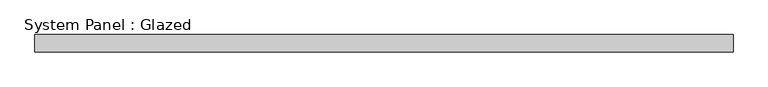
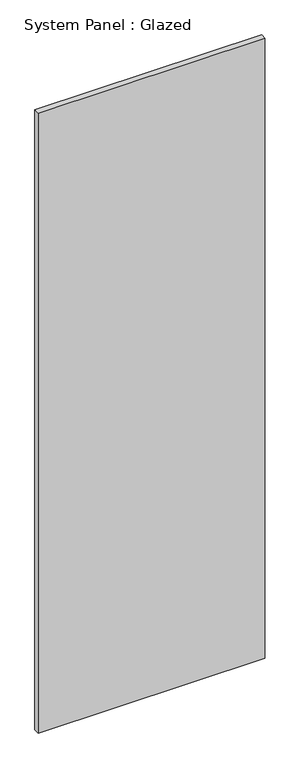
"""IFC4 building model written with IfcOpenShell, lengths in millimetres: plate geometry, System Panel : Glazed."""

from ifc_helpers import new_model, si_unit, origin, origin_with_axes, place, context, project, spatial, polyline, outline, extrude, source, transform, mapped, element, save


def system_panel_glazed_714bd533(model_context):
    return source(origin(), model_context, "Body", "SweptSolid", [
        extrude(outline(polyline([(505.8333334, 24.5), (-505.8333334, 24.5), (-505.8333334, 49.5), (505.8333334, 49.5), (505.8333334, 24.5)])), origin_with_axes(), (0.0, 0.0, 1.0), 2925.0),
    ])


if __name__ == "__main__":
    model = new_model("IFC4")
    model_context = context("Model", 3, world=origin())
    ifc_project = project(units=[si_unit("LENGTHUNIT", "METRE", prefix="MILLI")], contexts=[model_context])
    site = spatial("IfcSite", under=ifc_project)
    building = spatial("IfcBuilding", under=site)
    placement = place(None, origin())
    system_panel_glazed_shape = system_panel_glazed_714bd533(model_context)
    element("IfcPlate", 1, ObjectType="System Panel : Glazed", at=placement, inside=building, context=model_context, shape_type="MappedRepresentation", body=[
        mapped(system_panel_glazed_shape, transform((0.0, 0.0, 0.0), x_axis=(1.0, 0.0, 0.0), y_axis=(0.0, 1.0, 0.0), z_axis=(0.0, 0.0, 1.0))),
    ])
    save(model, "model.ifc")
